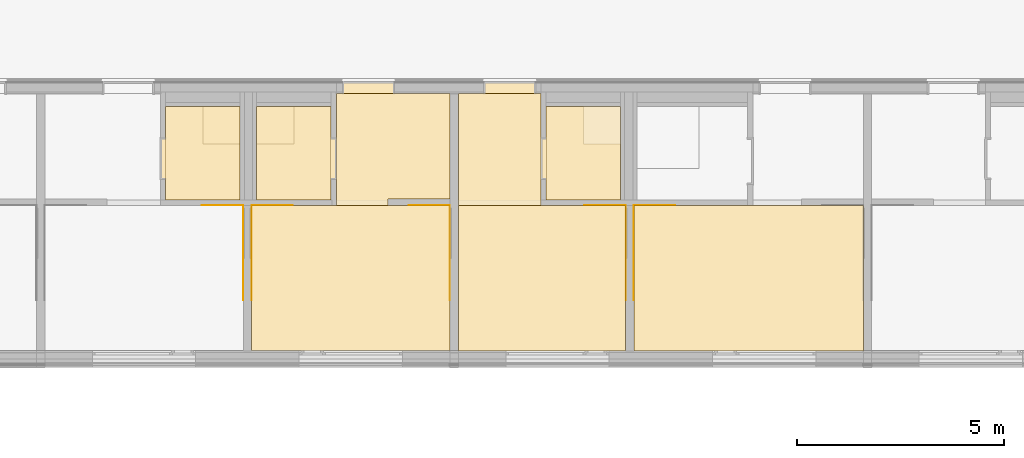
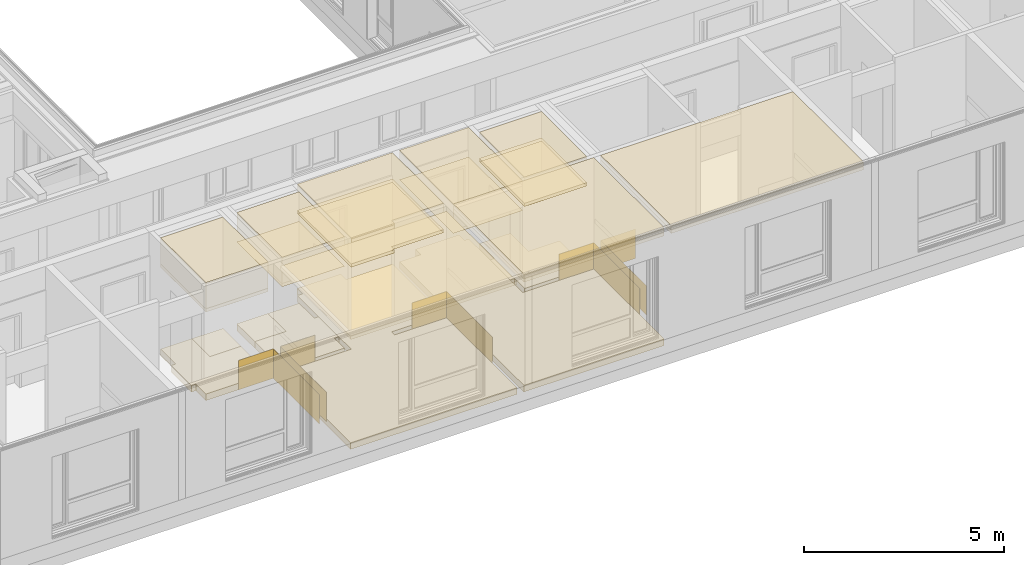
# One storey, part 179 of 207: 42 coverings.
"""IFC4 building model written with IfcOpenShell, lengths in metres."""

from ifc_helpers import new_model, entity, si_unit, converted_unit, derived_unit, frame, frame_2d, origin, origin_with_axes, place, context, subcontext, project, spatial, polyline, rectangle, outline, extrude, material, layer, layer_set, layer_usage, element, save


model = new_model("IFC4")

# Units and contexts
model_context = context("Model", 3, precision=1e-05, world=origin())
body_context = subcontext(model_context, "Body", "Model", "MODEL_VIEW")
ifc_project = project(units=[si_unit("LENGTHUNIT", "METRE"), si_unit("AREAUNIT", "SQUARE_METRE"), si_unit("VOLUMEUNIT", "CUBIC_METRE"), si_unit("MASSUNIT", "GRAM", prefix="KILO"), converted_unit("PLANEANGLEUNIT", "DEGREE", entity("IfcPlaneAngleMeasure", 0.0174532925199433), si_unit("PLANEANGLEUNIT", "RADIAN"), dimensions=[0, 0, 0, 0, 0, 0, 0]), derived_unit("THERMALTRANSMITTANCEUNIT", [(si_unit("POWERUNIT", "WATT"), 1), (si_unit("THERMODYNAMICTEMPERATUREUNIT", "KELVIN"), -1), (si_unit("LENGTHUNIT", "METRE"), -2)]), derived_unit("VOLUMETRICFLOWRATEUNIT", [(si_unit("LENGTHUNIT", "METRE"), 3), (converted_unit("TIMEUNIT", "hour", entity("IfcTimeMeasure", 3600.0), si_unit("TIMEUNIT", "SECOND"), dimensions=[0, 0, 1, 0, 0, 0, 0]), -1), (si_unit("LENGTHUNIT", "METRE"), -1)])], contexts=[model_context])

# Site, building, storey, space
site_placement = place(None, origin())
site = spatial("IfcSite", under=ifc_project, at=site_placement, Name="Psychiatrie Neubau Wunstorf", CompositionType="ELEMENT")
building_placement = place(site_placement, origin())
building = spatial("IfcBuilding", under=site, at=building_placement, Name="Neubau H2 Stationsgebäude", CompositionType="ELEMENT")
storey_placement = place(building_placement, frame((0.0, 0.0, -0.2)))
storey = spatial("IfcBuildingStorey", under=building, at=storey_placement, Name="H2 Ebene 0", CompositionType="ELEMENT", Elevation=-0.2)
space_1_placement = place(storey_placement, frame((88.2250000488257, 2.48550000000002, 0.0)))
space_1 = spatial("IfcSpace", under=storey, at=space_1_placement, Name="WUN-H2-E00-093a", CompositionType="ELEMENT")

# Coverings
ifc_material_1 = material(Name="Fl1")
ifc_layer_1 = layer(ifc_material_1, 0.2)
ifc_layer_set_1 = layer_set([ifc_layer_1])
ifc_layer_usage_1 = layer_usage(ifc_layer_set_1, "AXIS3", "POSITIVE", 0.0)
covering_1_placement = place(space_1_placement, frame((-0.125000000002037, 0.0, 0.0)))
element("IfcCovering", 1, at=covering_1_placement, inside=space_1, material=ifc_layer_usage_1, Name="Fliesen", PredefinedType="FLOORING", context=body_context, shape_type="SweptSolid", body=[
    extrude(rectangle(XDim=0.125, YDim=1.01, at=frame_2d((0.0625, 0.505), x_axis=(1.0, 0.0))), frame((0.0, 0.499999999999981, 0.0), z_axis=(0.0, 0.0, 1.0), x_axis=(1.0, 0.0, 0.0)), (0.0, 0.0, 1.0), 0.2),
    extrude(outline(polyline([(0.0, 0.0), (1.8, 0.0), (1.8, 1.365), (0.9, 1.365), (0.9, 2.265), (0.0, 2.265), (0.0, 0.0)])), frame((0.125000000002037, 0.0, 0.0), z_axis=(0.0, 0.0, 1.0), x_axis=(1.0, 0.0, 0.0)), (0.0, 0.0, 1.0), 0.2),
])
ifc_material_2 = material()
ifc_layer_2 = layer(ifc_material_2, 0.036)
ifc_layer_set_2 = layer_set([ifc_layer_2])
ifc_layer_usage_2 = layer_usage(ifc_layer_set_2, "AXIS3", "POSITIVE", 0.0)
covering_2_placement = place(space_1_placement, frame((0.0, 0.0, 3.6)))
element("IfcCovering", 2, at=covering_2_placement, inside=space_1, material=ifc_layer_usage_2, Name="Gipsfaserplatten 2-lagig (BSK)", PredefinedType="CEILING", context=body_context, shape_type="SweptSolid", body=[
    extrude(rectangle(XDim=1.8, YDim=2.265, at=frame_2d((-0.9, -1.1325), x_axis=(-1.0, 0.0))), frame((1.8, 0.0, 0.0), z_axis=(0.0, 0.0, -1.0), x_axis=(1.0, 0.0, 0.0)), (0.0, 0.0, 1.0), 0.036),
])
ifc_material_3 = material(Name="Installationshöhe")
ifc_layer_3 = layer(ifc_material_3, 0.764)
ifc_layer_set_3 = layer_set([ifc_layer_3])
ifc_layer_usage_3 = layer_usage(ifc_layer_set_3, "AXIS3", "POSITIVE", 0.0)
covering_3_placement = place(space_1_placement, frame((0.0, 0.0, 3.564)))
element("IfcCovering", 3, at=covering_3_placement, inside=space_1, material=ifc_layer_usage_3, Name="Gipsfaserplatten 2-lagig (BSK)", PredefinedType="CEILING", context=body_context, shape_type="SweptSolid", body=[
    extrude(rectangle(XDim=1.8, YDim=2.265, at=frame_2d((-0.9, -1.1325), x_axis=(-1.0, 0.0))), frame((1.8, 0.0, 0.0), z_axis=(0.0, 0.0, -1.0), x_axis=(1.0, 0.0, 0.0)), (0.0, 0.0, 1.0), 0.764),
])
ifc_material_4 = material(Name="B")
ifc_layer_4 = layer(ifc_material_4, 0.1)
ifc_layer_set_4 = layer_set([ifc_layer_4])
ifc_layer_usage_4 = layer_usage(ifc_layer_set_4, "AXIS3", "POSITIVE", 0.0)
covering_4_placement = place(space_1_placement, frame((0.0, 0.0, 2.8)))
element("IfcCovering", 4, at=covering_4_placement, inside=space_1, material=ifc_layer_usage_4, Name="Gipskarton, imprägniert", PredefinedType="CEILING", context=body_context, shape_type="SweptSolid", body=[
    extrude(rectangle(XDim=1.8, YDim=2.265, at=frame_2d((-0.9, -1.1325), x_axis=(-1.0, 0.0))), frame((1.8, 0.0, 0.0), z_axis=(0.0, 0.0, -1.0), x_axis=(1.0, 0.0, 0.0)), (0.0, 0.0, 1.0), 0.1),
])
ifc_material_5 = material(Name="D1")
ifc_layer_5 = layer(ifc_material_5, 0.001)
ifc_layer_set_5 = layer_set([ifc_layer_5])
ifc_layer_usage_5 = layer_usage(ifc_layer_set_5, "AXIS3", "POSITIVE", 0.0)
covering_5_placement = place(space_1_placement, frame((0.0, 0.0, 2.7)))
element("IfcCovering", 5, at=covering_5_placement, inside=space_1, material=ifc_layer_usage_5, Name="Gipsfaserplatten 2-lagig (BSK)", PredefinedType="CEILING", context=body_context, shape_type="SweptSolid", body=[
    extrude(rectangle(XDim=1.8, YDim=2.265, at=frame_2d((-0.9, -1.1325), x_axis=(-1.0, 0.0))), frame((1.8, 0.0, 0.0), z_axis=(0.0, 0.0, -1.0), x_axis=(1.0, 0.0, 0.0)), (0.0, 0.0, 1.0), 0.001),
])

# Space
space_2_placement = place(storey_placement, frame((81.2249999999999, 2.48550000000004, 0.0)))
space_2 = spatial("IfcSpace", under=storey, at=space_2_placement, Name="WUN-H2-E00-094a", CompositionType="ELEMENT")

# Coverings
ifc_material_6 = material(Name="Fl1")
ifc_layer_6 = layer(ifc_material_6, 0.2)
ifc_layer_set_6 = layer_set([ifc_layer_6])
ifc_layer_usage_6 = layer_usage(ifc_layer_set_6, "AXIS3", "POSITIVE", 0.0)
covering_6_placement = place(space_2_placement, origin())
element("IfcCovering", 6, at=covering_6_placement, inside=space_2, material=ifc_layer_usage_6, Name="Fliesen", PredefinedType="FLOORING", context=body_context, shape_type="SweptSolid", body=[
    extrude(rectangle(XDim=0.125, YDim=1.01, at=frame_2d((-0.0625, -0.505), x_axis=(-1.0, 0.0))), frame((1.92500000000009, 1.50999999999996, 0.0), z_axis=(0.0, 0.0, 1.0), x_axis=(1.0, 0.0, 0.0)), (0.0, 0.0, 1.0), 0.2),
    extrude(outline(polyline([(0.0, 0.0), (1.8, 0.0), (1.8, 2.265), (0.9, 2.265), (0.9, 1.365), (0.0, 1.365), (0.0, 0.0)])), origin_with_axes(), (0.0, 0.0, 1.0), 0.2),
])
ifc_material_7 = material(Name="Fl2")
ifc_layer_7 = layer(ifc_material_7, 0.2)
ifc_layer_set_7 = layer_set([ifc_layer_7])
ifc_layer_usage_7 = layer_usage(ifc_layer_set_7, "AXIS3", "POSITIVE", 0.0)
covering_7_placement = place(space_2_placement, frame((0.0, 1.365, 0.0)))
element("IfcCovering", 7, at=covering_7_placement, inside=space_2, material=ifc_layer_usage_7, Name="Fliesen Mosaik", PredefinedType="FLOORING", context=body_context, shape_type="SweptSolid", body=[
    extrude(rectangle(XDim=0.9, YDim=0.9, at=frame_2d((0.45, -0.45), x_axis=(0.0, -1.0))), frame((0.0, 0.9, 0.0), z_axis=(0.0, 0.0, 1.0), x_axis=(1.0, 0.0, 0.0)), (0.0, 0.0, 1.0), 0.2),
])
ifc_material_8 = material()
ifc_layer_8 = layer(ifc_material_8, 0.036)
ifc_layer_set_8 = layer_set([ifc_layer_8])
ifc_layer_usage_8 = layer_usage(ifc_layer_set_8, "AXIS3", "POSITIVE", 0.0)
covering_8_placement = place(space_2_placement, frame((0.0, 0.0, 3.6)))
element("IfcCovering", 8, at=covering_8_placement, inside=space_2, material=ifc_layer_usage_8, Name="Gipsfaserplatten 2-lagig (BSK)", PredefinedType="CEILING", context=body_context, shape_type="SweptSolid", body=[
    extrude(rectangle(XDim=1.8, YDim=2.265, at=frame_2d((0.9, 1.1325), x_axis=(1.0, 0.0))), frame((0.0, 2.265, 0.0), z_axis=(0.0, 0.0, -1.0), x_axis=(1.0, 0.0, 0.0)), (0.0, 0.0, 1.0), 0.036),
])
ifc_material_9 = material(Name="Installationshöhe")
ifc_layer_9 = layer(ifc_material_9, 0.764)
ifc_layer_set_9 = layer_set([ifc_layer_9])
ifc_layer_usage_9 = layer_usage(ifc_layer_set_9, "AXIS3", "POSITIVE", 0.0)
covering_9_placement = place(space_2_placement, frame((0.0, 0.0, 3.564)))
element("IfcCovering", 9, at=covering_9_placement, inside=space_2, material=ifc_layer_usage_9, Name="Gipsfaserplatten 2-lagig (BSK)", PredefinedType="CEILING", context=body_context, shape_type="SweptSolid", body=[
    extrude(rectangle(XDim=1.8, YDim=2.265, at=frame_2d((0.9, 1.1325), x_axis=(1.0, 0.0))), frame((0.0, 2.265, 0.0), z_axis=(0.0, 0.0, -1.0), x_axis=(1.0, 0.0, 0.0)), (0.0, 0.0, 1.0), 0.764),
])
ifc_material_10 = material(Name="B")
ifc_layer_10 = layer(ifc_material_10, 0.1)
ifc_layer_set_10 = layer_set([ifc_layer_10])
ifc_layer_usage_10 = layer_usage(ifc_layer_set_10, "AXIS3", "POSITIVE", 0.0)
covering_10_placement = place(space_2_placement, frame((0.0, 0.0, 2.8)))
element("IfcCovering", 10, at=covering_10_placement, inside=space_2, material=ifc_layer_usage_10, Name="Gipskarton, imprägniert", PredefinedType="CEILING", context=body_context, shape_type="SweptSolid", body=[
    extrude(rectangle(XDim=1.8, YDim=2.265, at=frame_2d((0.9, 1.1325), x_axis=(1.0, 0.0))), frame((0.0, 2.265, 0.0), z_axis=(0.0, 0.0, -1.0), x_axis=(1.0, 0.0, 0.0)), (0.0, 0.0, 1.0), 0.1),
])
ifc_material_11 = material(Name="D1")
ifc_layer_11 = layer(ifc_material_11, 0.001)
ifc_layer_set_11 = layer_set([ifc_layer_11])
ifc_layer_usage_11 = layer_usage(ifc_layer_set_11, "AXIS3", "POSITIVE", 0.0)
covering_11_placement = place(space_2_placement, frame((0.0, 0.0, 2.7)))
element("IfcCovering", 11, at=covering_11_placement, inside=space_2, material=ifc_layer_usage_11, Name="Gipsfaserplatten 2-lagig (BSK)", PredefinedType="CEILING", context=body_context, shape_type="SweptSolid", body=[
    extrude(rectangle(XDim=1.8, YDim=2.265, at=frame_2d((0.9, 1.1325), x_axis=(1.0, 0.0))), frame((0.0, 2.265, 0.0), z_axis=(0.0, 0.0, -1.0), x_axis=(1.0, 0.0, 0.0)), (0.0, 0.0, 1.0), 0.001),
])

# Space
space_3_placement = place(storey_placement, frame((79.0249999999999, 2.48550000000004, 0.0)))
space_3 = spatial("IfcSpace", under=storey, at=space_3_placement, Name="WUN-H2-E00-095a", CompositionType="ELEMENT")

# Coverings
ifc_material_12 = material(Name="Fl1")
ifc_layer_12 = layer(ifc_material_12, 0.2)
ifc_layer_set_12 = layer_set([ifc_layer_12])
ifc_layer_usage_12 = layer_usage(ifc_layer_set_12, "AXIS3", "POSITIVE", 0.0)
covering_12_placement = place(space_3_placement, frame((-0.124999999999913, 0.0, 0.0)))
element("IfcCovering", 12, at=covering_12_placement, inside=space_3, material=ifc_layer_usage_12, Name="Fliesen", PredefinedType="FLOORING", context=body_context, shape_type="SweptSolid", body=[
    extrude(rectangle(XDim=0.125, YDim=1.01, at=frame_2d((0.0625, 0.505), x_axis=(1.0, 0.0))), frame((0.0, 0.499999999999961, 0.0), z_axis=(0.0, 0.0, 1.0), x_axis=(1.0, 0.0, 0.0)), (0.0, 0.0, 1.0), 0.2),
    extrude(outline(polyline([(0.0, 0.0), (1.8, 0.0), (1.8, 1.36499999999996), (0.900000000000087, 1.36499999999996), (0.900000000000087, 2.265), (0.0, 2.265), (0.0, 0.0)])), frame((0.124999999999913, 0.0, 0.0), z_axis=(0.0, 0.0, 1.0), x_axis=(1.0, 0.0, 0.0)), (0.0, 0.0, 1.0), 0.2),
])
ifc_material_13 = material(Name="Fl2")
ifc_layer_13 = layer(ifc_material_13, 0.2)
ifc_layer_set_13 = layer_set([ifc_layer_13])
ifc_layer_usage_13 = layer_usage(ifc_layer_set_13, "AXIS3", "POSITIVE", 0.0)
covering_13_placement = place(space_3_placement, frame((0.900000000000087, 1.36499999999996, 0.0)))
element("IfcCovering", 13, at=covering_13_placement, inside=space_3, material=ifc_layer_usage_13, Name="Fliesen Mosaik", PredefinedType="FLOORING", context=body_context, shape_type="SweptSolid", body=[
    extrude(rectangle(XDim=0.9, YDim=0.9, at=frame_2d((-0.45, -0.45), x_axis=(-1.0, 0.0))), frame((0.9, 0.9, 0.0), z_axis=(0.0, 0.0, 1.0), x_axis=(1.0, 0.0, 0.0)), (0.0, 0.0, 1.0), 0.2),
])
ifc_material_14 = material()
ifc_layer_14 = layer(ifc_material_14, 0.036)
ifc_layer_set_14 = layer_set([ifc_layer_14])
ifc_layer_usage_14 = layer_usage(ifc_layer_set_14, "AXIS3", "POSITIVE", 0.0)
covering_14_placement = place(space_3_placement, frame((0.0, 0.0, 3.6)))
element("IfcCovering", 14, at=covering_14_placement, inside=space_3, material=ifc_layer_usage_14, Name="Gipsfaserplatten 2-lagig (BSK)", PredefinedType="CEILING", context=body_context, shape_type="SweptSolid", body=[
    extrude(rectangle(XDim=2.265, YDim=1.8, at=frame_2d((0.9, -1.1325), x_axis=(0.0, -1.0))), frame((0.0, 0.0, 0.0), z_axis=(0.0, 0.0, -1.0), x_axis=(1.0, 0.0, 0.0)), (0.0, 0.0, 1.0), 0.036),
])
ifc_material_15 = material(Name="Installationshöhe")
ifc_layer_15 = layer(ifc_material_15, 0.764)
ifc_layer_set_15 = layer_set([ifc_layer_15])
ifc_layer_usage_15 = layer_usage(ifc_layer_set_15, "AXIS3", "POSITIVE", 0.0)
covering_15_placement = place(space_3_placement, frame((0.0, 0.0, 3.564)))
element("IfcCovering", 15, at=covering_15_placement, inside=space_3, material=ifc_layer_usage_15, Name="Gipsfaserplatten 2-lagig (BSK)", PredefinedType="CEILING", context=body_context, shape_type="SweptSolid", body=[
    extrude(rectangle(XDim=2.265, YDim=1.8, at=frame_2d((0.9, -1.1325), x_axis=(0.0, -1.0))), frame((0.0, 0.0, 0.0), z_axis=(0.0, 0.0, -1.0), x_axis=(1.0, 0.0, 0.0)), (0.0, 0.0, 1.0), 0.764),
])
ifc_material_16 = material(Name="B")
ifc_layer_16 = layer(ifc_material_16, 0.1)
ifc_layer_set_16 = layer_set([ifc_layer_16])
ifc_layer_usage_16 = layer_usage(ifc_layer_set_16, "AXIS3", "POSITIVE", 0.0)
covering_16_placement = place(space_3_placement, frame((0.0, 0.0, 2.8)))
element("IfcCovering", 16, at=covering_16_placement, inside=space_3, material=ifc_layer_usage_16, Name="Gipskarton, imprägniert", PredefinedType="CEILING", context=body_context, shape_type="SweptSolid", body=[
    extrude(rectangle(XDim=2.265, YDim=1.8, at=frame_2d((0.9, -1.1325), x_axis=(0.0, -1.0))), frame((0.0, 0.0, 0.0), z_axis=(0.0, 0.0, -1.0), x_axis=(1.0, 0.0, 0.0)), (0.0, 0.0, 1.0), 0.1),
])
ifc_material_17 = material(Name="D1")
ifc_layer_17 = layer(ifc_material_17, 0.001)
ifc_layer_set_17 = layer_set([ifc_layer_17])
ifc_layer_usage_17 = layer_usage(ifc_layer_set_17, "AXIS3", "POSITIVE", 0.0)
covering_17_placement = place(space_3_placement, frame((0.0, 0.0, 2.7)))
element("IfcCovering", 17, at=covering_17_placement, inside=space_3, material=ifc_layer_usage_17, Name="Gipsfaserplatten 2-lagig (BSK)", PredefinedType="CEILING", context=body_context, shape_type="SweptSolid", body=[
    extrude(rectangle(XDim=2.265, YDim=1.8, at=frame_2d((0.9, -1.1325), x_axis=(0.0, -1.0))), frame((0.0, 0.0, 0.0), z_axis=(0.0, 0.0, -1.0), x_axis=(1.0, 0.0, 0.0)), (0.0, 0.0, 1.0), 0.001),
])

# Space
space_4_placement = place(storey_placement, frame((86.1000000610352, -1.16399999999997, 0.0)))
space_4 = spatial("IfcSpace", under=storey, at=space_4_placement, Name="WUN-H2-E00-093", CompositionType="ELEMENT")

# Coverings
ifc_material_18 = material(Name="84")
ifc_layer_18 = layer(ifc_material_18, 0.001)
ifc_layer_set_18 = layer_set([ifc_layer_18])
ifc_layer_usage_18 = layer_usage(ifc_layer_set_18, "AXIS3", "POSITIVE", 0.0)
covering_18_placement = place(space_4_placement, frame((3.05, 1.22449994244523, 0.1)))
element("IfcCovering", 18, at=covering_18_placement, inside=space_4, material=ifc_layer_usage_18, Name="Acrobyn", PredefinedType="CLADDING", context=body_context, shape_type="SweptSolid", body=[
    extrude(rectangle(XDim=0.9, YDim=1.0, at=frame_2d((-0.5, -0.45), x_axis=(0.0, -1.0))), frame((0.0, 2.3, 0.0), z_axis=(4.54747350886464e-16, -1.0, 0.0), x_axis=(-1.0, -4.54747350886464e-16, 0.0)), (0.0, 0.0, 1.0), 0.001),
    extrude(rectangle(XDim=0.9, YDim=2.3, at=frame_2d((-1.15, -0.45), x_axis=(0.0, -1.0))), frame((1.0, 2.3, 0.0), z_axis=(-1.0, 0.0, 0.0), x_axis=(0.0, 1.0, 0.0)), (0.0, 0.0, 1.0), 0.001),
])
ifc_material_19 = material(Name="Ku1")
ifc_layer_19 = layer(ifc_material_19, 0.2)
ifc_layer_set_19 = layer_set([ifc_layer_19])
ifc_layer_usage_19 = layer_usage(ifc_layer_set_19, "AXIS3", "POSITIVE", 0.0)
covering_19_placement = place(space_4_placement, origin())
element("IfcCovering", 19, at=covering_19_placement, inside=space_4, material=ifc_layer_usage_19, Name="PVC Bahnenware Holzoptik", PredefinedType="FLOORING", context=body_context, shape_type="SweptSolid", body=[
    extrude(rectangle(XDim=0.272, YDim=1.26, at=frame_2d((-0.63, 0.136), x_axis=(0.0, 1.0))), frame((1.8749999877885, 6.22449999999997, 0.0), z_axis=(0.0, 0.0, 1.0), x_axis=(1.0, 0.0, 0.0)), (0.0, 0.0, 1.0), 0.2),
    extrude(outline(polyline([(1.99999998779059, 3.52449999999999), (2.0, 6.22450000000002), (0.0, 6.22450000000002), (0.0, 0.0), (4.05, 0.0), (4.05, 3.52449999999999), (1.99999998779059, 3.52449999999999)])), origin_with_axes(), (0.0, 0.0, 1.0), 0.2),
])
ifc_material_20 = material()
ifc_layer_20 = layer(ifc_material_20, 0.036)
ifc_layer_set_20 = layer_set([ifc_layer_20])
ifc_layer_usage_20 = layer_usage(ifc_layer_set_20, "AXIS3", "POSITIVE", 0.0)
covering_20_placement = place(space_4_placement, frame((0.0, 3.52449999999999, 3.6)))
element("IfcCovering", 20, at=covering_20_placement, inside=space_4, material=ifc_layer_usage_20, Name="Gipsfaserplatten 2-lagig (BSK)", PredefinedType="CEILING", context=body_context, shape_type="SweptSolid", body=[
    extrude(outline(polyline([(2.0, 0.0), (1.99999998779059, 2.7), (0.0, 2.7), (0.0, 0.0), (2.0, 0.0)])), frame((0.0, 2.7, 0.0), z_axis=(0.0, 0.0, -1.0), x_axis=(1.0, 0.0, 0.0)), (0.0, 0.0, 1.0), 0.036),
])
ifc_material_21 = material(Name="Installationshöhe")
ifc_layer_21 = layer(ifc_material_21, 0.764)
ifc_layer_set_21 = layer_set([ifc_layer_21])
ifc_layer_usage_21 = layer_usage(ifc_layer_set_21, "AXIS3", "POSITIVE", 0.0)
covering_21_placement = place(space_4_placement, frame((0.0, 3.52449999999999, 3.564)))
element("IfcCovering", 21, at=covering_21_placement, inside=space_4, material=ifc_layer_usage_21, Name="Gipsfaserplatten 2-lagig (BSK)", PredefinedType="CEILING", context=body_context, shape_type="SweptSolid", body=[
    extrude(outline(polyline([(2.0, 0.0), (1.99999998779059, 2.7), (0.0, 2.7), (0.0, 0.0), (2.0, 0.0)])), frame((0.0, 2.7, 0.0), z_axis=(0.0, 0.0, -1.0), x_axis=(1.0, 0.0, 0.0)), (0.0, 0.0, 1.0), 0.764),
])
ifc_material_22 = material(Name="A1")
ifc_layer_22 = layer(ifc_material_22, 0.1)
ifc_layer_set_22 = layer_set([ifc_layer_22])
ifc_layer_usage_22 = layer_usage(ifc_layer_set_22, "AXIS3", "POSITIVE", 0.0)
covering_22_placement = place(space_4_placement, frame((0.0, 3.52449999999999, 2.8)))
element("IfcCovering", 22, at=covering_22_placement, inside=space_4, material=ifc_layer_usage_22, Name="Gipsfaserplatten 2-lagig (BSK)", PredefinedType="CEILING", context=body_context, shape_type="SweptSolid", body=[
    extrude(outline(polyline([(2.0, 0.0), (1.99999998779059, 2.7), (0.0, 2.7), (0.0, 0.0), (2.0, 0.0)])), frame((0.0, 2.7, 0.0), z_axis=(0.0, 0.0, -1.0), x_axis=(1.0, 0.0, 0.0)), (0.0, 0.0, 1.0), 0.1),
])
ifc_material_23 = material(Name="D1")
ifc_layer_23 = layer(ifc_material_23, 0.001)
ifc_layer_set_23 = layer_set([ifc_layer_23])
ifc_layer_usage_23 = layer_usage(ifc_layer_set_23, "AXIS3", "POSITIVE", 0.0)
covering_23_placement = place(space_4_placement, frame((0.0, 3.52449999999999, 2.7)))
element("IfcCovering", 23, at=covering_23_placement, inside=space_4, material=ifc_layer_usage_23, Name="Gipsfaserplatten 2-lagig (BSK)", PredefinedType="CEILING", context=body_context, shape_type="SweptSolid", body=[
    extrude(outline(polyline([(2.0, 0.0), (1.99999998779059, 2.7), (0.0, 2.7), (0.0, 0.0), (2.0, 0.0)])), frame((0.0, 2.7, 0.0), z_axis=(0.0, 0.0, -1.0), x_axis=(1.0, 0.0, 0.0)), (0.0, 0.0, 1.0), 0.001),
])
ifc_material_24 = material()
ifc_layer_24 = layer(ifc_material_24, 0.036)
ifc_layer_set_24 = layer_set([ifc_layer_24])
ifc_layer_usage_24 = layer_usage(ifc_layer_set_24, "AXIS3", "POSITIVE", 0.0)
covering_24_placement = place(space_4_placement, frame((0.0, 0.0, 3.6)))
element("IfcCovering", 24, at=covering_24_placement, inside=space_4, material=ifc_layer_usage_24, Name="Gipsfaserplatten 2-lagig (BSK)", PredefinedType="CEILING", context=body_context, shape_type="SweptSolid", body=[
    extrude(rectangle(XDim=4.05, YDim=3.52449999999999, at=frame_2d((2.025, 1.76224999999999), x_axis=(1.0, 2.24566593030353e-16))), frame((0.0, 3.52449999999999, 0.0), z_axis=(0.0, 0.0, -1.0), x_axis=(1.0, 0.0, 0.0)), (0.0, 0.0, 1.0), 0.036),
])
ifc_material_25 = material(Name="Installationshöhe")
ifc_layer_25 = layer(ifc_material_25, 0.114)
ifc_layer_set_25 = layer_set([ifc_layer_25])
ifc_layer_usage_25 = layer_usage(ifc_layer_set_25, "AXIS3", "POSITIVE", 0.0)
covering_25_placement = place(space_4_placement, frame((0.0, 0.0, 3.564)))
element("IfcCovering", 25, at=covering_25_placement, inside=space_4, material=ifc_layer_usage_25, Name="Gipsfaserplatten 2-lagig (BSK)", PredefinedType="CEILING", context=body_context, shape_type="SweptSolid", body=[
    extrude(rectangle(XDim=4.05, YDim=3.52449999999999, at=frame_2d((2.025, 1.76224999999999), x_axis=(1.0, 2.24566593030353e-16))), frame((0.0, 3.52449999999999, 0.0), z_axis=(0.0, 0.0, -1.0), x_axis=(1.0, 0.0, 0.0)), (0.0, 0.0, 1.0), 0.114),
])
ifc_material_26 = material(Name="A1")
ifc_layer_26 = layer(ifc_material_26, 0.1)
ifc_layer_set_26 = layer_set([ifc_layer_26])
ifc_layer_usage_26 = layer_usage(ifc_layer_set_26, "AXIS3", "POSITIVE", 0.0)
covering_26_placement = place(space_4_placement, frame((0.0, 0.0, 3.45)))
element("IfcCovering", 26, at=covering_26_placement, inside=space_4, material=ifc_layer_usage_26, Name="Gipsfaserplatten 2-lagig (BSK)", PredefinedType="CEILING", context=body_context, shape_type="SweptSolid", body=[
    extrude(rectangle(XDim=4.05, YDim=3.52449999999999, at=frame_2d((2.025, 1.76224999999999), x_axis=(1.0, 2.24566593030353e-16))), frame((0.0, 3.52449999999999, 0.0), z_axis=(0.0, 0.0, -1.0), x_axis=(1.0, 0.0, 0.0)), (0.0, 0.0, 1.0), 0.1),
])
ifc_material_27 = material(Name="D1")
ifc_layer_27 = layer(ifc_material_27, 0.001)
ifc_layer_set_27 = layer_set([ifc_layer_27])
ifc_layer_usage_27 = layer_usage(ifc_layer_set_27, "AXIS3", "POSITIVE", 0.0)
covering_27_placement = place(space_4_placement, frame((0.0, 0.0, 3.35)))
element("IfcCovering", 27, at=covering_27_placement, inside=space_4, material=ifc_layer_usage_27, Name="Gipsfaserplatten 2-lagig (BSK)", PredefinedType="CEILING", context=body_context, shape_type="SweptSolid", body=[
    extrude(rectangle(XDim=4.05, YDim=3.52449999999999, at=frame_2d((2.025, 1.76224999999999), x_axis=(1.0, 2.24566593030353e-16))), frame((0.0, 3.52449999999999, 0.0), z_axis=(0.0, 0.0, -1.0), x_axis=(1.0, 0.0, 0.0)), (0.0, 0.0, 1.0), 0.001),
])

# Space
space_5_placement = place(storey_placement, frame((81.1, -1.16399999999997, 0.0)))
space_5 = spatial("IfcSpace", under=storey, at=space_5_placement, Name="WUN-H2-E00-094", CompositionType="ELEMENT")

# Coverings
ifc_material_28 = material(Name="84")
ifc_layer_28 = layer(ifc_material_28, 0.001)
ifc_layer_set_28 = layer_set([ifc_layer_28])
ifc_layer_usage_28 = layer_usage(ifc_layer_set_28, "AXIS3", "POSITIVE", 0.0)
covering_28_placement = place(space_5_placement, frame((3.80000006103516, 1.22449994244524, 0.1)))
element("IfcCovering", 28, at=covering_28_placement, inside=space_5, material=ifc_layer_usage_28, Name="Acrobyn", PredefinedType="CLADDING", context=body_context, shape_type="SweptSolid", body=[
    extrude(rectangle(XDim=0.9, YDim=1.0, at=frame_2d((-0.5, -0.45), x_axis=(0.0, -1.0))), frame((0.0, 2.3, 0.0), z_axis=(4.54747350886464e-16, -1.0, 0.0), x_axis=(-1.0, -4.54747350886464e-16, 0.0)), (0.0, 0.0, 1.0), 0.001),
    extrude(rectangle(XDim=0.9, YDim=2.3, at=frame_2d((-1.15, -0.45), x_axis=(0.0, -1.0))), frame((1.0, 2.3, 0.0), z_axis=(-1.0, 0.0, 0.0), x_axis=(0.0, 1.0, 0.0)), (0.0, 0.0, 1.0), 0.001),
])
ifc_material_29 = material(Name="84")
ifc_layer_29 = layer(ifc_material_29, 0.001)
ifc_layer_set_29 = layer_set([ifc_layer_29])
ifc_layer_usage_29 = layer_usage(ifc_layer_set_29, "AXIS3", "POSITIVE", 0.0)
covering_29_placement = place(space_5_placement, frame((0.0, 1.22449994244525, 0.1)))
element("IfcCovering", 29, at=covering_29_placement, inside=space_5, material=ifc_layer_usage_29, Name="Acrobyn", PredefinedType="CLADDING", context=body_context, shape_type="SweptSolid", body=[
    extrude(rectangle(XDim=1.0, YDim=0.9, at=frame_2d((0.5, -0.45), x_axis=(1.0, 0.0))), frame((1.0, 2.3, 0.0), z_axis=(0.0, -1.0, 0.0), x_axis=(-1.0, 0.0, 0.0)), (0.0, 0.0, 1.0), 0.001),
    extrude(rectangle(XDim=2.3, YDim=0.9, at=frame_2d((1.15, -0.45), x_axis=(1.0, 0.0))), frame((0.0, 2.3, 0.0), z_axis=(1.0, 0.0, 0.0), x_axis=(0.0, -1.0, 0.0)), (0.0, 0.0, 1.0), 0.001),
])
ifc_material_30 = material(Name="Ku1")
ifc_layer_30 = layer(ifc_material_30, 0.2)
ifc_layer_set_30 = layer_set([ifc_layer_30])
ifc_layer_usage_30 = layer_usage(ifc_layer_set_30, "AXIS3", "POSITIVE", 0.0)
covering_30_placement = place(space_5_placement, origin())
element("IfcCovering", 30, at=covering_30_placement, inside=space_5, material=ifc_layer_usage_30, Name="PVC Bahnenware Holzoptik", PredefinedType="FLOORING", context=body_context, shape_type="SweptSolid", body=[
    extrude(rectangle(XDim=0.272, YDim=1.26, at=frame_2d((-0.63, 0.136), x_axis=(0.0, 1.0))), frame((3.46, 6.22449999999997, 0.0), z_axis=(0.0, 0.0, 1.0), x_axis=(1.0, 0.0, 0.0)), (0.0, 0.0, 1.0), 0.2),
    extrude(outline(polyline([(3.30000004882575, 3.52449999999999), (3.30000003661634, 3.67449999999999), (4.80000004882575, 3.67449999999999), (4.80000006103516, 6.22450000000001), (2.05, 6.22450000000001), (2.04999999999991, 3.52450000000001), (0.0, 3.52450000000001), (0.0, 0.0), (4.80000004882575, 0.0), (4.80000006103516, 3.52449999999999), (3.30000004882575, 3.52449999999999)])), origin_with_axes(), (0.0, 0.0, 1.0), 0.2),
])
ifc_material_31 = material(Name="A1")
ifc_layer_31 = layer(ifc_material_31, 0.1)
ifc_layer_set_31 = layer_set([ifc_layer_31])
ifc_layer_usage_31 = layer_usage(ifc_layer_set_31, "AXIS3", "POSITIVE", 0.0)
covering_31_placement = place(space_5_placement, frame((0.0, 0.0, 3.45)))
element("IfcCovering", 31, at=covering_31_placement, inside=space_5, material=ifc_layer_usage_31, Name="Gipsfaserplatten 2-lagig (BSK)", PredefinedType="CEILING", context=body_context, shape_type="SweptSolid", body=[
    extrude(outline(polyline([(4.80000006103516, 0.0), (4.80000004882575, 3.52450000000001), (0.0, 3.52450000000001), (0.0, 0.0), (4.80000006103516, 0.0)])), frame((0.0, 3.52450000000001, 0.0), z_axis=(0.0, 0.0, -1.0), x_axis=(1.0, 0.0, 0.0)), (0.0, 0.0, 1.0), 0.1),
])
ifc_material_32 = material(Name="D1")
ifc_layer_32 = layer(ifc_material_32, 0.001)
ifc_layer_set_32 = layer_set([ifc_layer_32])
ifc_layer_usage_32 = layer_usage(ifc_layer_set_32, "AXIS3", "POSITIVE", 0.0)
covering_32_placement = place(space_5_placement, frame((0.0, 0.0, 3.35)))
element("IfcCovering", 32, at=covering_32_placement, inside=space_5, material=ifc_layer_usage_32, Name="Gipsfaserplatten 2-lagig (BSK)", PredefinedType="CEILING", context=body_context, shape_type="SweptSolid", body=[
    extrude(outline(polyline([(4.80000006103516, 0.0), (4.80000004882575, 3.52450000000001), (0.0, 3.52450000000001), (0.0, 0.0), (4.80000006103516, 0.0)])), frame((0.0, 3.52450000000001, 0.0), z_axis=(0.0, 0.0, -1.0), x_axis=(1.0, 0.0, 0.0)), (0.0, 0.0, 1.0), 0.001),
])
ifc_material_33 = material()
ifc_layer_33 = layer(ifc_material_33, 0.036)
ifc_layer_set_33 = layer_set([ifc_layer_33])
ifc_layer_usage_33 = layer_usage(ifc_layer_set_33, "AXIS3", "POSITIVE", 0.0)
covering_33_placement = place(space_5_placement, frame((2.05, 3.52449999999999, 3.6)))
element("IfcCovering", 33, at=covering_33_placement, inside=space_5, material=ifc_layer_usage_33, Name="Gipsfaserplatten 2-lagig (BSK)", PredefinedType="CEILING", context=body_context, shape_type="SweptSolid", body=[
    extrude(outline(polyline([(0.0, 0.0), (2.75000006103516, 0.0), (2.75000004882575, 2.55000000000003), (1.25000004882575, 2.55000000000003), (1.25000004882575, 2.70000000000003), (0.0, 2.70000000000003), (0.0, 0.0)])), frame((0.0, 2.70000000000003, 0.0), z_axis=(0.0, 0.0, -1.0), x_axis=(1.0, 0.0, 0.0)), (0.0, 0.0, 1.0), 0.036),
])
ifc_material_34 = material(Name="Installationshöhe")
ifc_layer_34 = layer(ifc_material_34, 0.764)
ifc_layer_set_34 = layer_set([ifc_layer_34])
ifc_layer_usage_34 = layer_usage(ifc_layer_set_34, "AXIS3", "POSITIVE", 0.0)
covering_34_placement = place(space_5_placement, frame((2.05, 3.52449999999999, 3.564)))
element("IfcCovering", 34, at=covering_34_placement, inside=space_5, material=ifc_layer_usage_34, Name="Gipsfaserplatten 2-lagig (BSK)", PredefinedType="CEILING", context=body_context, shape_type="SweptSolid", body=[
    extrude(outline(polyline([(0.0, 0.0), (2.75000006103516, 0.0), (2.75000004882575, 2.55000000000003), (1.25000004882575, 2.55000000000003), (1.25000004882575, 2.70000000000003), (0.0, 2.70000000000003), (0.0, 0.0)])), frame((0.0, 2.70000000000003, 0.0), z_axis=(0.0, 0.0, -1.0), x_axis=(1.0, 0.0, 0.0)), (0.0, 0.0, 1.0), 0.764),
])
ifc_material_35 = material(Name="A1")
ifc_layer_35 = layer(ifc_material_35, 0.1)
ifc_layer_set_35 = layer_set([ifc_layer_35])
ifc_layer_usage_35 = layer_usage(ifc_layer_set_35, "AXIS3", "POSITIVE", 0.0)
covering_35_placement = place(space_5_placement, frame((2.05, 3.52449999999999, 2.8)))
element("IfcCovering", 35, at=covering_35_placement, inside=space_5, material=ifc_layer_usage_35, Name="Gipsfaserplatten 2-lagig (BSK)", PredefinedType="CEILING", context=body_context, shape_type="SweptSolid", body=[
    extrude(outline(polyline([(0.0, 0.0), (2.75000006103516, 0.0), (2.75000004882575, 2.55000000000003), (1.25000004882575, 2.55000000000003), (1.25000004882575, 2.70000000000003), (0.0, 2.70000000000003), (0.0, 0.0)])), frame((0.0, 2.70000000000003, 0.0), z_axis=(0.0, 0.0, -1.0), x_axis=(1.0, 0.0, 0.0)), (0.0, 0.0, 1.0), 0.1),
])
ifc_material_36 = material(Name="D1")
ifc_layer_36 = layer(ifc_material_36, 0.001)
ifc_layer_set_36 = layer_set([ifc_layer_36])
ifc_layer_usage_36 = layer_usage(ifc_layer_set_36, "AXIS3", "POSITIVE", 0.0)
covering_36_placement = place(space_5_placement, frame((2.05, 3.52449999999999, 2.7)))
element("IfcCovering", 36, at=covering_36_placement, inside=space_5, material=ifc_layer_usage_36, Name="Gipsfaserplatten 2-lagig (BSK)", PredefinedType="CEILING", context=body_context, shape_type="SweptSolid", body=[
    extrude(outline(polyline([(0.0, 0.0), (2.75000006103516, 0.0), (2.75000004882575, 2.55000000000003), (1.25000004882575, 2.55000000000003), (1.25000004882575, 2.70000000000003), (0.0, 2.70000000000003), (0.0, 0.0)])), frame((0.0, 2.70000000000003, 0.0), z_axis=(0.0, 0.0, -1.0), x_axis=(1.0, 0.0, 0.0)), (0.0, 0.0, 1.0), 0.001),
])

# Space
space_6_placement = place(storey_placement, frame((90.35, -1.17499993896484, 0.0)))
space_6 = spatial("IfcSpace", under=storey, at=space_6_placement, Name="WUN-H2-E00-092", CompositionType="ELEMENT")

# Coverings
ifc_material_37 = material(Name="84")
ifc_layer_37 = layer(ifc_material_37, 0.001)
ifc_layer_set_37 = layer_set([ifc_layer_37])
ifc_layer_usage_37 = layer_usage(ifc_layer_set_37, "AXIS3", "POSITIVE", 0.0)
covering_37_placement = place(space_6_placement, frame((3.66121530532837e-08, 1.2354998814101, 0.1)))
element("IfcCovering", 37, at=covering_37_placement, inside=space_6, material=ifc_layer_usage_37, Name="Acrobyn", PredefinedType="CLADDING", context=body_context, shape_type="SweptSolid", body=[
    extrude(rectangle(XDim=1.0, YDim=0.9, at=frame_2d((0.5, -0.45), x_axis=(1.0, 0.0))), frame((1.0, 2.3, 0.0), z_axis=(0.0, -1.0, 0.0), x_axis=(-1.0, 0.0, 0.0)), (0.0, 0.0, 1.0), 0.001),
    extrude(rectangle(XDim=2.3, YDim=0.9, at=frame_2d((1.15, -0.45), x_axis=(1.0, 0.0))), frame((0.0, 2.3, 0.0), z_axis=(1.0, 0.0, 0.0), x_axis=(0.0, -1.0, 0.0)), (0.0, 0.0, 1.0), 0.001),
])
ifc_material_38 = material()
ifc_layer_38 = layer(ifc_material_38, 0.036)
ifc_layer_set_38 = layer_set([ifc_layer_38])
ifc_layer_usage_38 = layer_usage(ifc_layer_set_38, "AXIS3", "POSITIVE", 0.0)
covering_38_placement = place(space_6_placement, frame((0.0, 0.0109999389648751, 3.6)))
element("IfcCovering", 38, at=covering_38_placement, inside=space_6, material=ifc_layer_usage_38, Name="Gipsfaserplatten 2-lagig (BSK)", PredefinedType="CEILING", context=body_context, shape_type="SweptSolid", body=[
    extrude(outline(polyline([(5.55, 0.0), (5.55, 3.52449999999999), (4.88257501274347e-08, 3.52449999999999), (0.0, 0.0), (5.55, 0.0)])), frame((0.0, 3.52449999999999, 0.0), z_axis=(0.0, 0.0, -1.0), x_axis=(1.0, 0.0, 0.0)), (0.0, 0.0, 1.0), 0.036),
])
ifc_material_39 = material(Name="Installationshöhe")
ifc_layer_39 = layer(ifc_material_39, 0.114)
ifc_layer_set_39 = layer_set([ifc_layer_39])
ifc_layer_usage_39 = layer_usage(ifc_layer_set_39, "AXIS3", "POSITIVE", 0.0)
covering_39_placement = place(space_6_placement, frame((0.0, 0.0109999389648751, 3.564)))
element("IfcCovering", 39, at=covering_39_placement, inside=space_6, material=ifc_layer_usage_39, Name="Gipsfaserplatten 2-lagig (BSK)", PredefinedType="CEILING", context=body_context, shape_type="SweptSolid", body=[
    extrude(outline(polyline([(5.55, 0.0), (5.55, 3.52449999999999), (4.88257501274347e-08, 3.52449999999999), (0.0, 0.0), (5.55, 0.0)])), frame((0.0, 3.52449999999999, 0.0), z_axis=(0.0, 0.0, -1.0), x_axis=(1.0, 0.0, 0.0)), (0.0, 0.0, 1.0), 0.114),
])
ifc_material_40 = material(Name="A1")
ifc_layer_40 = layer(ifc_material_40, 0.1)
ifc_layer_set_40 = layer_set([ifc_layer_40])
ifc_layer_usage_40 = layer_usage(ifc_layer_set_40, "AXIS3", "POSITIVE", 0.0)
covering_40_placement = place(space_6_placement, frame((0.0, 0.0109999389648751, 3.45)))
element("IfcCovering", 40, at=covering_40_placement, inside=space_6, material=ifc_layer_usage_40, Name="Gipsfaserplatten 2-lagig (BSK)", PredefinedType="CEILING", context=body_context, shape_type="SweptSolid", body=[
    extrude(outline(polyline([(5.55, 0.0), (5.55, 3.52449999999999), (4.88257501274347e-08, 3.52449999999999), (0.0, 0.0), (5.55, 0.0)])), frame((0.0, 3.52449999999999, 0.0), z_axis=(0.0, 0.0, -1.0), x_axis=(1.0, 0.0, 0.0)), (0.0, 0.0, 1.0), 0.1),
])
ifc_material_41 = material(Name="D1")
ifc_layer_41 = layer(ifc_material_41, 0.001)
ifc_layer_set_41 = layer_set([ifc_layer_41])
ifc_layer_usage_41 = layer_usage(ifc_layer_set_41, "AXIS3", "POSITIVE", 0.0)
covering_41_placement = place(space_6_placement, frame((0.0, 0.0109999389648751, 3.35)))
element("IfcCovering", 41, at=covering_41_placement, inside=space_6, material=ifc_layer_usage_41, Name="Gipsfaserplatten 2-lagig (BSK)", PredefinedType="CEILING", context=body_context, shape_type="SweptSolid", body=[
    extrude(outline(polyline([(5.55, 0.0), (5.55, 3.52449999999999), (4.88257501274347e-08, 3.52449999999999), (0.0, 0.0), (5.55, 0.0)])), frame((0.0, 3.52449999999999, 0.0), z_axis=(0.0, 0.0, -1.0), x_axis=(1.0, 0.0, 0.0)), (0.0, 0.0, 1.0), 0.001),
])

# Space
space_7_placement = place(storey_placement, frame((76.1, -1.16399999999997, 0.0)))
space_7 = spatial("IfcSpace", under=storey, at=space_7_placement, Name="WUN-H2-E00-095", CompositionType="ELEMENT")

# Covering
ifc_material_42 = material(Name="84")
ifc_layer_42 = layer(ifc_material_42, 0.001)
ifc_layer_set_42 = layer_set([ifc_layer_42])
ifc_layer_usage_42 = layer_usage(ifc_layer_set_42, "AXIS3", "POSITIVE", 0.0)
covering_42_placement = place(space_7_placement, frame((3.8, 1.22449994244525, 0.1)))
element("IfcCovering", 42, at=covering_42_placement, inside=space_7, material=ifc_layer_usage_42, Name="Acrobyn", PredefinedType="CLADDING", context=body_context, shape_type="SweptSolid", body=[
    extrude(rectangle(XDim=0.9, YDim=1.0, at=frame_2d((-0.5, -0.45), x_axis=(0.0, -1.0))), frame((0.0, 2.3, 0.0), z_axis=(4.54747350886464e-16, -1.0, 0.0), x_axis=(-1.0, -4.54747350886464e-16, 0.0)), (0.0, 0.0, 1.0), 0.001),
    extrude(rectangle(XDim=0.9, YDim=2.3, at=frame_2d((-1.15, -0.45), x_axis=(0.0, -1.0))), frame((1.0, 2.3, 0.0), z_axis=(-1.0, 0.0, 0.0), x_axis=(0.0, 1.0, 0.0)), (0.0, 0.0, 1.0), 0.001),
])

save(model, "model.ifc")
